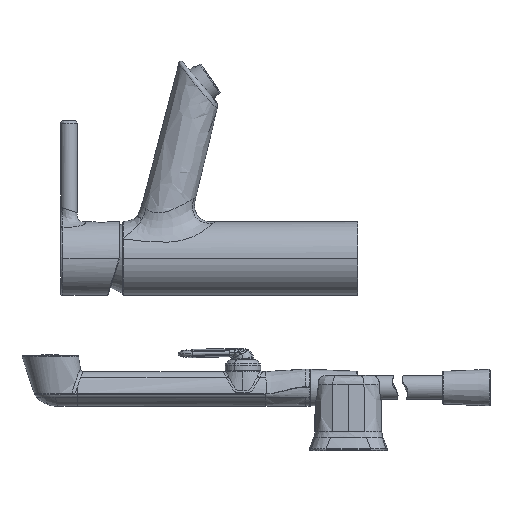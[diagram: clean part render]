
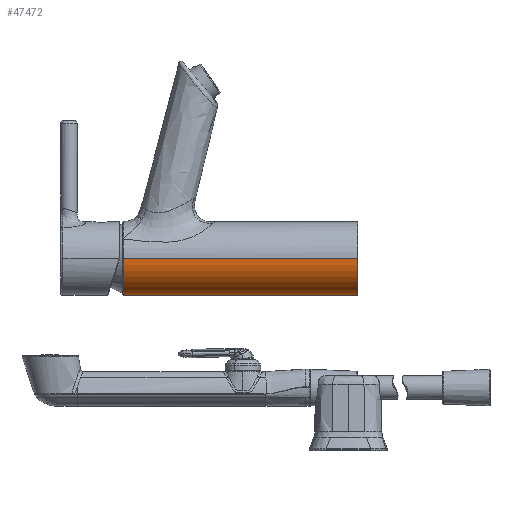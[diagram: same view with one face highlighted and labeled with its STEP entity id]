
A CAD part, left-side view. The second image highlights one B-rep face of the part: STEP entity #47472.
In plain terms, the highlighted cylindrical face has radius 23.25 mm (diameter 46.5 mm), a partial arc.
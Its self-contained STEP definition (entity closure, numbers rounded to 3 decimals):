
#362 = EDGE_LOOP ( 'NONE', ( #59752, #31154, #5518, #38491 ) ) ;
#5518 = ORIENTED_EDGE ( 'NONE', *, *, #59650, .T. ) ;
#6328 = AXIS2_PLACEMENT_3D ( 'NONE', #15453, #71908, #65542 ) ;
#6395 = FACE_OUTER_BOUND ( 'NONE', #362, .T. ) ;
#10990 = VECTOR ( 'NONE', #17099, 1000. ) ;
#12591 = EDGE_CURVE ( 'NONE', #40022, #36395, #66648, .T. ) ;
#15453 = CARTESIAN_POINT ( 'NONE',  ( 0., -5., 0. ) ) ;
#16712 = DIRECTION ( 'NONE',  ( 0., 1., 0. ) ) ;
#17099 = DIRECTION ( 'NONE',  ( 0., 1., 0. ) ) ;
#17149 = LINE ( 'NONE', #72815, #10990 ) ;
#17315 = CARTESIAN_POINT ( 'NONE',  ( 23.25, 72., 0. ) ) ;
#22345 = CARTESIAN_POINT ( 'NONE',  ( 0., 143.5, 0. ) ) ;
#27146 = CARTESIAN_POINT ( 'NONE',  ( 23.25, -5., 0. ) ) ;
#27614 = CYLINDRICAL_SURFACE ( 'NONE', #31132, 23.25 ) ;
#27800 = DIRECTION ( 'NONE',  ( 1., 0., 0. ) ) ;
#28534 = DIRECTION ( 'NONE',  ( 0., -1., 0. ) ) ;
#31132 = AXIS2_PLACEMENT_3D ( 'NONE', #44090, #16712, #39637 ) ;
#31154 = ORIENTED_EDGE ( 'NONE', *, *, #36906, .T. ) ;
#34875 = VECTOR ( 'NONE', #53026, 1000. ) ;
#35074 = CIRCLE ( 'NONE', #6328, 23.25 ) ;
#36006 = AXIS2_PLACEMENT_3D ( 'NONE', #22345, #28534, #27800 ) ;
#36395 = VERTEX_POINT ( 'NONE', #50625 ) ;
#36663 = VERTEX_POINT ( 'NONE', #44732 ) ;
#36906 = EDGE_CURVE ( 'NONE', #38979, #36663, #17149, .T. ) ;
#38491 = ORIENTED_EDGE ( 'NONE', *, *, #12591, .F. ) ;
#38979 = VERTEX_POINT ( 'NONE', #61709 ) ;
#39637 = DIRECTION ( 'NONE',  ( 1., 0., 0. ) ) ;
#40022 = VERTEX_POINT ( 'NONE', #27146 ) ;
#44090 = CARTESIAN_POINT ( 'NONE',  ( 0., 72., 0. ) ) ;
#44732 = CARTESIAN_POINT ( 'NONE',  ( -23.25, 143.5, 0. ) ) ;
#47472 = ADVANCED_FACE ( 'NONE', ( #6395 ), #27614, .T. ) ;
#50625 = CARTESIAN_POINT ( 'NONE',  ( 23.25, 143.5, 0. ) ) ;
#53026 = DIRECTION ( 'NONE',  ( 0., 1., 0. ) ) ;
#55488 = CIRCLE ( 'NONE', #36006, 23.25 ) ;
#59650 = EDGE_CURVE ( 'NONE', #36663, #36395, #55488, .T. ) ;
#59752 = ORIENTED_EDGE ( 'NONE', *, *, #69895, .T. ) ;
#61709 = CARTESIAN_POINT ( 'NONE',  ( -23.25, -5., 0. ) ) ;
#65542 = DIRECTION ( 'NONE',  ( 1., 0., 0. ) ) ;
#66648 = LINE ( 'NONE', #17315, #34875 ) ;
#69895 = EDGE_CURVE ( 'NONE', #40022, #38979, #35074, .T. ) ;
#71908 = DIRECTION ( 'NONE',  ( 0., 1., 0. ) ) ;
#72815 = CARTESIAN_POINT ( 'NONE',  ( -23.25, 72., 0. ) ) ;
